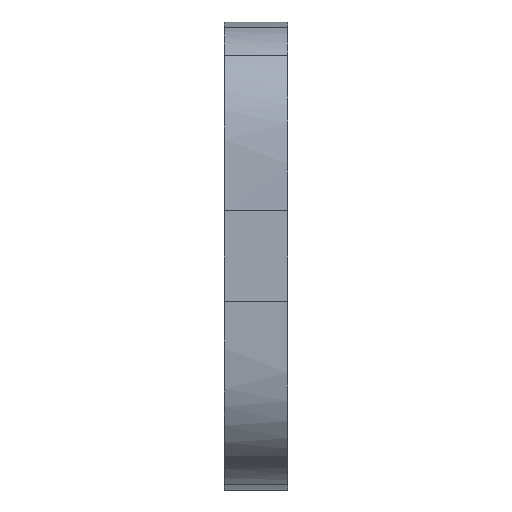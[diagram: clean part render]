
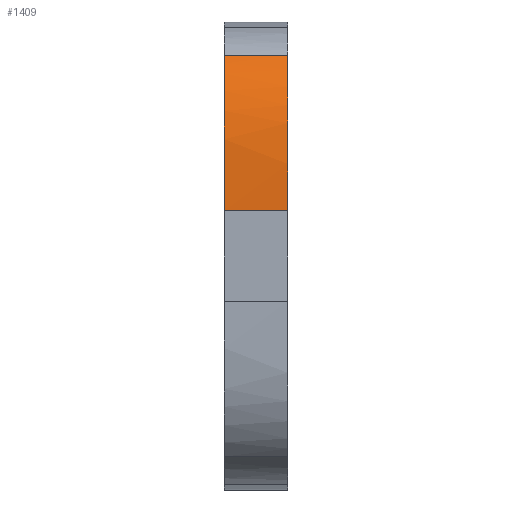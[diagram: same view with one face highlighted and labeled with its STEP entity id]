
A CAD part, front view. The second image highlights one B-rep face of the part: STEP entity #1409.
In plain terms, the highlighted free-form (B-spline) face has degree [3, 1] with [22, 2] control points.
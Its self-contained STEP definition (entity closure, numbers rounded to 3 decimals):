
#29=B_SPLINE_SURFACE_WITH_KNOTS('',3,1,((#3060,#3061),(#3062,#3063),(#3064,
#3065),(#3066,#3067),(#3068,#3069),(#3070,#3071),(#3072,#3073),(#3074,#3075),
(#3076,#3077),(#3078,#3079),(#3080,#3081),(#3082,#3083),(#3084,#3085),(#3086,
#3087),(#3088,#3089),(#3090,#3091),(#3092,#3093),(#3094,#3095),(#3096,#3097),
(#3098,#3099),(#3100,#3101),(#3102,#3103)),.UNSPECIFIED.,.F.,.F.,.F.,(4,
3,3,3,3,3,3,4),(2,2),(0.,0.433,0.856,1.11,
1.356,1.558,1.589,1.815),(0.,
0.7),.UNSPECIFIED.);
#204=FACE_OUTER_BOUND('',#293,.T.);
#293=EDGE_LOOP('',(#1299,#1300,#1301,#1302));
#406=LINE('',#3059,#519);
#407=LINE('',#3104,#520);
#519=VECTOR('',#1869,10.);
#520=VECTOR('',#1870,10.);
#527=B_SPLINE_CURVE_WITH_KNOTS('',3,(#1924,#1925,#1926,#1927,#1928,#1929,
#1930,#1931,#1932,#1933,#1934,#1935,#1936,#1937,#1938,#1939,#1940,#1941,
#1942,#1943,#1944,#1945),.UNSPECIFIED.,.F.,.F.,(4,3,3,3,3,3,3,4),(0.,0.433,
0.856,1.11,1.356,1.558,1.589,
1.815),.UNSPECIFIED.);
#551=B_SPLINE_CURVE_WITH_KNOTS('',3,(#2348,#2349,#2350,#2351,#2352,#2353,
#2354,#2355,#2356,#2357,#2358,#2359,#2360,#2361,#2362,#2363,#2364,#2365,
#2366,#2367,#2368,#2369),.UNSPECIFIED.,.F.,.F.,(4,3,3,3,3,3,3,4),(-1.815,
-1.589,-1.558,-1.356,-1.11,
-0.856,-0.433,0.),.UNSPECIFIED.);
#564=VERTEX_POINT('',#1921);
#565=VERTEX_POINT('',#1923);
#635=VERTEX_POINT('',#2336);
#636=VERTEX_POINT('',#2347);
#702=EDGE_CURVE('',#564,#565,#527,.T.);
#774=EDGE_CURVE('',#635,#636,#551,.T.);
#900=EDGE_CURVE('',#635,#565,#406,.T.);
#901=EDGE_CURVE('',#636,#564,#407,.T.);
#1299=ORIENTED_EDGE('',*,*,#774,.F.);
#1300=ORIENTED_EDGE('',*,*,#900,.T.);
#1301=ORIENTED_EDGE('',*,*,#702,.F.);
#1302=ORIENTED_EDGE('',*,*,#901,.F.);
#1409=ADVANCED_FACE('',(#204),#29,.T.);
#1869=DIRECTION('',(-1.,0.,0.));
#1870=DIRECTION('',(-1.,0.,0.));
#1921=CARTESIAN_POINT('',(160.,-85.9,164.9));
#1923=CARTESIAN_POINT('',(160.,-81.009,182.11));
#1924=CARTESIAN_POINT('Ctrl Pts',(160.,-85.9,164.9));
#1925=CARTESIAN_POINT('Ctrl Pts',(160.,-85.9,166.533));
#1926=CARTESIAN_POINT('Ctrl Pts',(160.,-85.892,168.025));
#1927=CARTESIAN_POINT('Ctrl Pts',(160.,-85.832,169.44));
#1928=CARTESIAN_POINT('Ctrl Pts',(160.,-85.774,170.824));
#1929=CARTESIAN_POINT('Ctrl Pts',(160.,-85.673,172.052));
#1930=CARTESIAN_POINT('Ctrl Pts',(160.,-85.485,173.247));
#1931=CARTESIAN_POINT('Ctrl Pts',(160.,-85.372,173.965));
#1932=CARTESIAN_POINT('Ctrl Pts',(160.,-85.211,174.784));
#1933=CARTESIAN_POINT('Ctrl Pts',(160.,-84.94,175.71));
#1934=CARTESIAN_POINT('Ctrl Pts',(160.,-84.671,176.631));
#1935=CARTESIAN_POINT('Ctrl Pts',(160.,-84.344,177.516));
#1936=CARTESIAN_POINT('Ctrl Pts',(160.,-83.841,178.486));
#1937=CARTESIAN_POINT('Ctrl Pts',(160.,-83.465,179.211));
#1938=CARTESIAN_POINT('Ctrl Pts',(160.,-83.001,179.924));
#1939=CARTESIAN_POINT('Ctrl Pts',(160.,-82.588,180.452));
#1940=CARTESIAN_POINT('Ctrl Pts',(160.,-82.526,180.532));
#1941=CARTESIAN_POINT('Ctrl Pts',(160.,-82.466,180.606));
#1942=CARTESIAN_POINT('Ctrl Pts',(160.,-82.409,180.676));
#1943=CARTESIAN_POINT('Ctrl Pts',(160.,-81.974,181.207));
#1944=CARTESIAN_POINT('Ctrl Pts',(160.,-81.412,181.762));
#1945=CARTESIAN_POINT('Ctrl Pts',(160.,-81.009,182.11));
#2336=CARTESIAN_POINT('',(167.,-81.009,182.11));
#2347=CARTESIAN_POINT('',(167.,-85.9,164.9));
#2348=CARTESIAN_POINT('Ctrl Pts',(167.,-81.009,182.11));
#2349=CARTESIAN_POINT('Ctrl Pts',(167.,-81.412,181.762));
#2350=CARTESIAN_POINT('Ctrl Pts',(167.,-81.974,181.207));
#2351=CARTESIAN_POINT('Ctrl Pts',(167.,-82.409,180.676));
#2352=CARTESIAN_POINT('Ctrl Pts',(167.,-82.466,180.606));
#2353=CARTESIAN_POINT('Ctrl Pts',(167.,-82.526,180.532));
#2354=CARTESIAN_POINT('Ctrl Pts',(167.,-82.588,180.452));
#2355=CARTESIAN_POINT('Ctrl Pts',(167.,-83.001,179.924));
#2356=CARTESIAN_POINT('Ctrl Pts',(167.,-83.465,179.211));
#2357=CARTESIAN_POINT('Ctrl Pts',(167.,-83.841,178.486));
#2358=CARTESIAN_POINT('Ctrl Pts',(167.,-84.344,177.516));
#2359=CARTESIAN_POINT('Ctrl Pts',(167.,-84.671,176.631));
#2360=CARTESIAN_POINT('Ctrl Pts',(167.,-84.94,175.71));
#2361=CARTESIAN_POINT('Ctrl Pts',(167.,-85.211,174.784));
#2362=CARTESIAN_POINT('Ctrl Pts',(167.,-85.372,173.965));
#2363=CARTESIAN_POINT('Ctrl Pts',(167.,-85.485,173.247));
#2364=CARTESIAN_POINT('Ctrl Pts',(167.,-85.673,172.052));
#2365=CARTESIAN_POINT('Ctrl Pts',(167.,-85.774,170.824));
#2366=CARTESIAN_POINT('Ctrl Pts',(167.,-85.832,169.44));
#2367=CARTESIAN_POINT('Ctrl Pts',(167.,-85.892,168.025));
#2368=CARTESIAN_POINT('Ctrl Pts',(167.,-85.9,166.533));
#2369=CARTESIAN_POINT('Ctrl Pts',(167.,-85.9,164.9));
#3059=CARTESIAN_POINT('',(167.,-81.009,182.11));
#3060=CARTESIAN_POINT('Ctrl Pts',(167.,-85.9,164.9));
#3061=CARTESIAN_POINT('Ctrl Pts',(160.,-85.9,164.9));
#3062=CARTESIAN_POINT('Ctrl Pts',(167.,-85.9,166.533));
#3063=CARTESIAN_POINT('Ctrl Pts',(160.,-85.9,166.533));
#3064=CARTESIAN_POINT('Ctrl Pts',(167.,-85.892,168.025));
#3065=CARTESIAN_POINT('Ctrl Pts',(160.,-85.892,168.025));
#3066=CARTESIAN_POINT('Ctrl Pts',(167.,-85.832,169.44));
#3067=CARTESIAN_POINT('Ctrl Pts',(160.,-85.832,169.44));
#3068=CARTESIAN_POINT('Ctrl Pts',(167.,-85.774,170.824));
#3069=CARTESIAN_POINT('Ctrl Pts',(160.,-85.774,170.824));
#3070=CARTESIAN_POINT('Ctrl Pts',(167.,-85.673,172.052));
#3071=CARTESIAN_POINT('Ctrl Pts',(160.,-85.673,172.052));
#3072=CARTESIAN_POINT('Ctrl Pts',(167.,-85.485,173.247));
#3073=CARTESIAN_POINT('Ctrl Pts',(160.,-85.485,173.247));
#3074=CARTESIAN_POINT('Ctrl Pts',(167.,-85.372,173.965));
#3075=CARTESIAN_POINT('Ctrl Pts',(160.,-85.372,173.965));
#3076=CARTESIAN_POINT('Ctrl Pts',(167.,-85.211,174.784));
#3077=CARTESIAN_POINT('Ctrl Pts',(160.,-85.211,174.784));
#3078=CARTESIAN_POINT('Ctrl Pts',(167.,-84.94,175.71));
#3079=CARTESIAN_POINT('Ctrl Pts',(160.,-84.94,175.71));
#3080=CARTESIAN_POINT('Ctrl Pts',(167.,-84.671,176.631));
#3081=CARTESIAN_POINT('Ctrl Pts',(160.,-84.671,176.631));
#3082=CARTESIAN_POINT('Ctrl Pts',(167.,-84.344,177.516));
#3083=CARTESIAN_POINT('Ctrl Pts',(160.,-84.344,177.516));
#3084=CARTESIAN_POINT('Ctrl Pts',(167.,-83.841,178.486));
#3085=CARTESIAN_POINT('Ctrl Pts',(160.,-83.841,178.486));
#3086=CARTESIAN_POINT('Ctrl Pts',(167.,-83.465,179.211));
#3087=CARTESIAN_POINT('Ctrl Pts',(160.,-83.465,179.211));
#3088=CARTESIAN_POINT('Ctrl Pts',(167.,-83.001,179.924));
#3089=CARTESIAN_POINT('Ctrl Pts',(160.,-83.001,179.924));
#3090=CARTESIAN_POINT('Ctrl Pts',(167.,-82.588,180.452));
#3091=CARTESIAN_POINT('Ctrl Pts',(160.,-82.588,180.452));
#3092=CARTESIAN_POINT('Ctrl Pts',(167.,-82.526,180.532));
#3093=CARTESIAN_POINT('Ctrl Pts',(160.,-82.526,180.532));
#3094=CARTESIAN_POINT('Ctrl Pts',(167.,-82.466,180.606));
#3095=CARTESIAN_POINT('Ctrl Pts',(160.,-82.466,180.606));
#3096=CARTESIAN_POINT('Ctrl Pts',(167.,-82.409,180.676));
#3097=CARTESIAN_POINT('Ctrl Pts',(160.,-82.409,180.676));
#3098=CARTESIAN_POINT('Ctrl Pts',(167.,-81.974,181.207));
#3099=CARTESIAN_POINT('Ctrl Pts',(160.,-81.974,181.207));
#3100=CARTESIAN_POINT('Ctrl Pts',(167.,-81.412,181.762));
#3101=CARTESIAN_POINT('Ctrl Pts',(160.,-81.412,181.762));
#3102=CARTESIAN_POINT('Ctrl Pts',(167.,-81.009,182.11));
#3103=CARTESIAN_POINT('Ctrl Pts',(160.,-81.009,182.11));
#3104=CARTESIAN_POINT('',(167.,-85.9,164.9));
